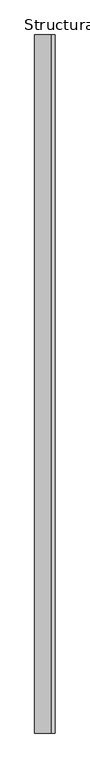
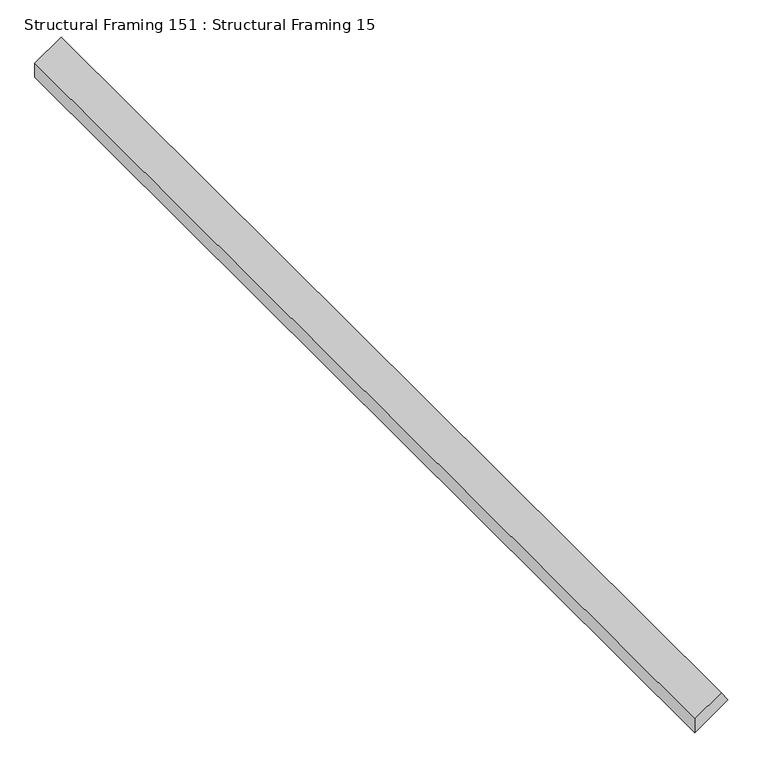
"""IFC4 building model written with IfcOpenShell, lengths in millimetres: beam geometry, Structural Framing 151 : Structural Framing 15."""

from ifc_helpers import new_model, si_unit, frame, origin, place, context, project, spatial, polyline, outline, extrude, source, transform, mapped, element, save


def structural_framing_151_structural_framing_15_911aee75(model_context):
    return source(origin(), model_context, "Body", "SweptSolid", [
        extrude(outline(polyline([(100.0, -2649.2207109), (120.4788011, -2663.5601218), (81.6513175, -2719.0115151), (51.1319528, -2719.0115151), (100.0, -2649.2207109)])), frame((0.0, -6511.9491979, 0.0), z_axis=(0.0, 1.0, 0.0), x_axis=(0.0, 0.0, 1.0)), (0.0, 0.0, 1.0), 2400.0),
    ])


if __name__ == "__main__":
    model = new_model("IFC4")
    model_context = context("Model", 3, world=origin())
    ifc_project = project(units=[si_unit("LENGTHUNIT", "METRE", prefix="MILLI")], contexts=[model_context])
    site = spatial("IfcSite", under=ifc_project)
    building = spatial("IfcBuilding", under=site)
    placement = place(None, origin())
    structural_framing_151_structural_framing_15_shape = structural_framing_151_structural_framing_15_911aee75(model_context)
    element("IfcBeam", 1, ObjectType="Structural Framing 151 : Structural Framing 15", at=placement, inside=building, context=model_context, shape_type="MappedRepresentation", body=[
        mapped(structural_framing_151_structural_framing_15_shape, transform((0.0, 0.0, 0.0), x_axis=(1.0, 0.0, 0.0), y_axis=(0.0, 1.0, 0.0), z_axis=(0.0, 0.0, 1.0))),
    ])
    save(model, "model.ifc")
